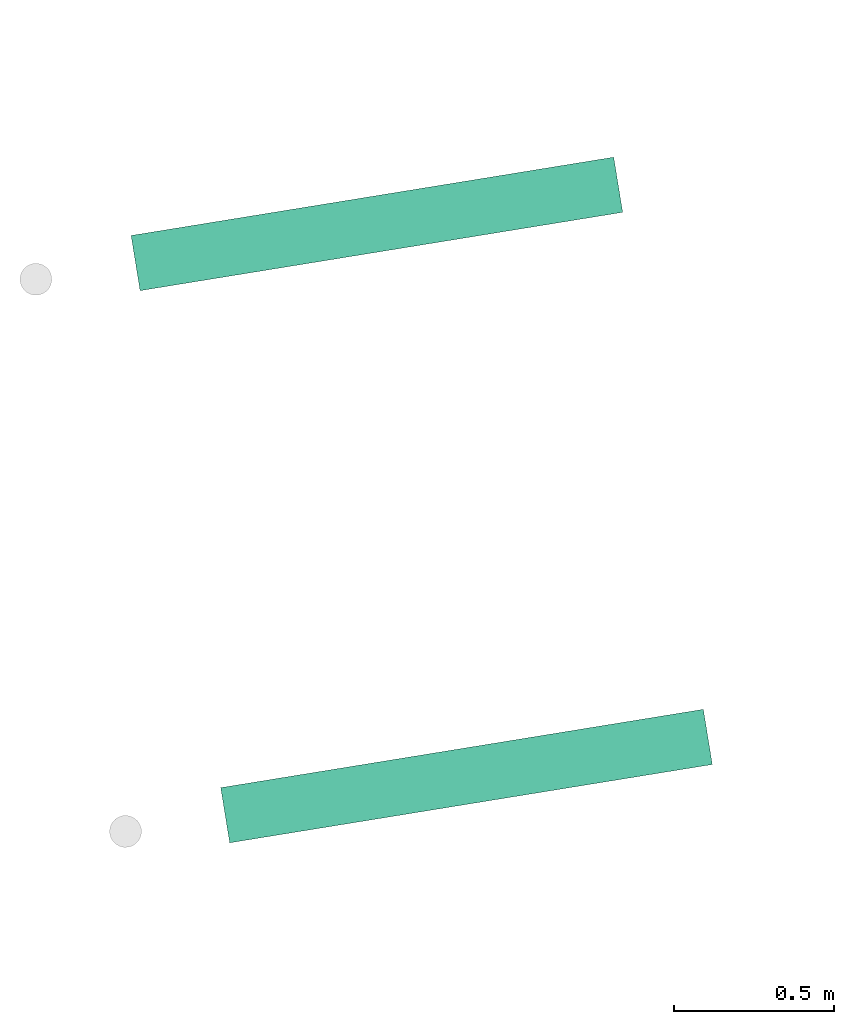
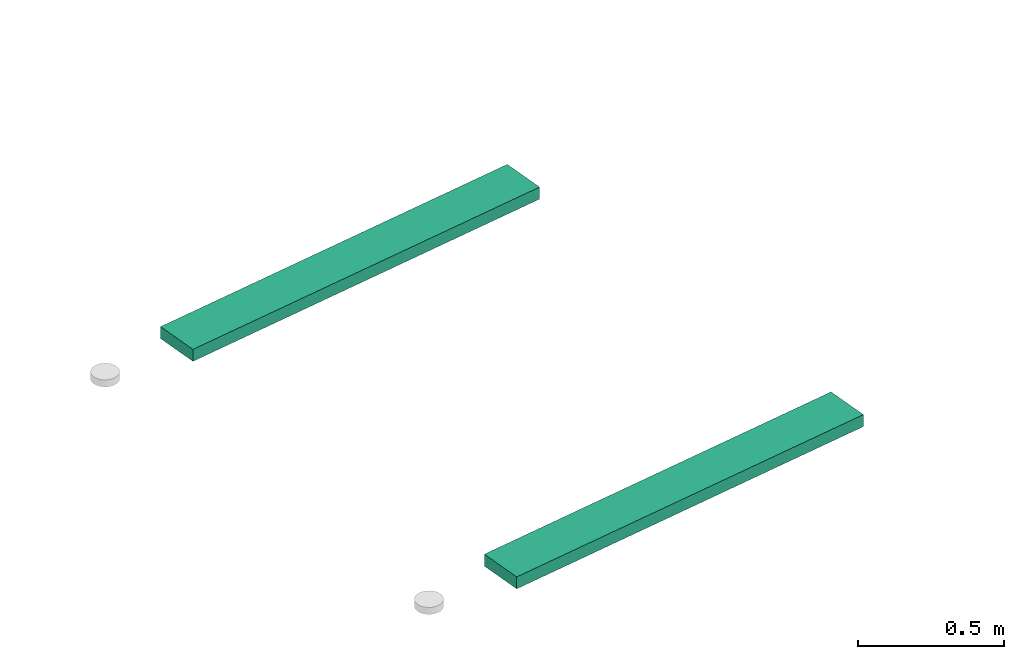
# One storey, incomplete: 2 flow terminals.
"""IFC2X3 building model written with IfcOpenShell, lengths in millimetres."""

import ifcopenshell
import ifcopenshell.guid

model = None  # the IFC model being written
_history = None  # IfcOwnerHistory: only IFC2X3 demands one
_inside = {}  # id of a spatial element -> (the spatial element, [elements in it])
_under = {}  # id of a project, library or spatial element -> (it, [spatial elements below it])
_declared = {}  # id of a project -> (the project, [libraries it declares])
_typed = {}  # id of a type object -> (the type object, [elements of that type])
_made_of = {}  # id of a material, layer set ... -> (it, [elements and type objects made of it])


def new_model(schema):
    """Start an empty IFC model of exactly this schema.

    Asked for "IFC4X3", IfcOpenShell would pick the latest addendum, in which some entities
    have other attributes; the version numbers below select the first issue.
    IFC2X3 requires an IfcOwnerHistory on every rooted entity: one is made here for all.
    """
    global model, _history
    if schema == "IFC4X3":
        model = ifcopenshell.file(schema_version=(4, 3, 0, 0))
    else:
        model = ifcopenshell.file(schema=schema)
    _inside.clear()
    _under.clear()
    _declared.clear()
    _typed.clear()
    _made_of.clear()
    _history = None
    if model.schema == "IFC2X3":
        org = make("IfcOrganization", Name="unknown")
        user = make(
            "IfcPersonAndOrganization",
            ThePerson=make("IfcPerson", FamilyName="unknown"),
            TheOrganization=org,
        )
        app = make(
            "IfcApplication",
            ApplicationDeveloper=org,
            Version="unknown",
            ApplicationFullName="unknown",
            ApplicationIdentifier="unknown",
        )
        _history = make(
            "IfcOwnerHistory",
            OwningUser=user,
            OwningApplication=app,
            ChangeAction="ADDED",
            CreationDate=0,
        )
    return model


def make(cls, **values):
    """One entity of the class cls with the attributes given. An attribute that is None is left unset."""
    return model.create_entity(
        cls, **{name: value for name, value in values.items() if value is not None}
    )


def entity(cls, *values):
    """Any entity or typed value of the class cls, its attributes in the order of the schema. None: left unset."""
    e = model.create_entity(cls)
    for i, value in enumerate(values):
        if value is not None:
            e[i] = value
    return e


def rooted(cls, **values):
    """An entity with a GlobalId (a new one), such as an element, a storey or a relation."""
    return make(cls, GlobalId=ifcopenshell.guid.new(), OwnerHistory=_history, **values)


def si_unit(unit_type, name, prefix=None):
    """IfcSIUnit, for example si_unit("LENGTHUNIT", "METRE", prefix="MILLI")."""
    return make("IfcSIUnit", UnitType=unit_type, Prefix=prefix, Name=name)


def converted_unit(unit_type, name, factor, base, dimensions=None, offset=None):
    """IfcConversionBasedUnit, such as the inch: factor (a typed value) times the base unit."""
    return make(
        "IfcConversionBasedUnit"
        if offset is None
        else "IfcConversionBasedUnitWithOffset",
        ConversionOffset=offset,
        Dimensions=None
        if dimensions is None
        else entity("IfcDimensionalExponents", *dimensions),
        UnitType=unit_type,
        Name=name,
        ConversionFactor=make(
            "IfcMeasureWithUnit", ValueComponent=factor, UnitComponent=base
        ),
    )


def derived_unit(unit_type, elements):
    """IfcDerivedUnit: a product of units, each with its exponent."""
    return make(
        "IfcDerivedUnit",
        Elements=[
            make("IfcDerivedUnitElement", Unit=unit, Exponent=power)
            for unit, power in elements
        ],
        UnitType=unit_type,
    )


def assignment(units):
    """IfcUnitAssignment: the units of a project."""
    return None if units is None else make("IfcUnitAssignment", Units=units)


def point(xyz):
    """IfcCartesianPoint."""
    return None if xyz is None else make("IfcCartesianPoint", Coordinates=xyz)


def direction(xyz):
    """IfcDirection."""
    return None if xyz is None else make("IfcDirection", DirectionRatios=xyz)


def frame(location, z_axis=None, x_axis=None):
    """IfcAxis2Placement3D, a coordinate frame: its origin and axes. An axis left out is left unset."""
    return make(
        "IfcAxis2Placement3D",
        Location=point(location),
        Axis=direction(z_axis),
        RefDirection=direction(x_axis),
    )


def frame_2d(location, x_axis=None):
    """IfcAxis2Placement2D, a coordinate frame in the plane: its origin and x axis."""
    return make(
        "IfcAxis2Placement2D", Location=point(location), RefDirection=direction(x_axis)
    )


def origin():
    """The frame at (0, 0, 0) with its axes left unset."""
    return frame((0.0, 0.0, 0.0))


def origin_with_axes():
    """The frame at (0, 0, 0) with the z axis (0, 0, 1) and the x axis (1, 0, 0) written out."""
    return frame((0.0, 0.0, 0.0), z_axis=(0.0, 0.0, 1.0), x_axis=(1.0, 0.0, 0.0))


def origin_2d_with_axis():
    """The frame at (0, 0) in the plane with the x axis (1, 0) written out."""
    return frame_2d((0.0, 0.0), x_axis=(1.0, 0.0))


def place(relative_to, where):
    """IfcLocalPlacement: puts the frame where relative to a parent placement (None: the world)."""
    return make(
        "IfcLocalPlacement", PlacementRelTo=relative_to, RelativePlacement=where
    )


def context(
    kind, dimensions, precision=None, world=None, true_north=None, identifier=None
):
    """IfcGeometricRepresentationContext, for example the 3D "Model" context."""
    return make(
        "IfcGeometricRepresentationContext",
        ContextIdentifier=identifier,
        ContextType=kind,
        CoordinateSpaceDimension=dimensions,
        Precision=precision,
        WorldCoordinateSystem=world,
        TrueNorth=true_north,
    )


def subcontext(parent, identifier, kind, view, scale=None):
    """IfcGeometricRepresentationSubContext, for example "Body" below "Model"."""
    return make(
        "IfcGeometricRepresentationSubContext",
        ContextIdentifier=identifier,
        ContextType=kind,
        ParentContext=parent,
        TargetScale=scale,
        TargetView=view,
    )


def project(units=None, contexts=None):
    """IfcProject with its units and contexts."""
    return rooted(
        "IfcProject",
        Name="project",
        RepresentationContexts=contexts,
        UnitsInContext=assignment(units),
    )


def spatial(cls, under=None, at=None, **own):
    """A site, building, storey or space (cls), placed at a placement, below another one or the project."""
    s = rooted(cls, ObjectPlacement=at, **own)
    if under is not None:
        _under.setdefault(under.id(), (under, []))[1].append(s)
    return s


def profile(cls, at=None, kind="AREA", **sizes):
    """A parametric profile (cls). Its sizes go by their IFC names, for example OverallWidth=200.0."""
    return make(cls, ProfileType=kind, Position=at, **sizes)


def rectangle(**sizes):
    """IfcRectangleProfileDef."""
    return profile("IfcRectangleProfileDef", **sizes)


def extrude(swept, where, along, depth):
    """IfcExtrudedAreaSolid: the profile swept, set in the frame where, extruded along a direction by depth."""
    return make(
        "IfcExtrudedAreaSolid",
        SweptArea=swept,
        Position=where,
        ExtrudedDirection=direction(along),
        Depth=depth,
    )


def shape(context_of_items, identifier, shape_type, items):
    """IfcShapeRepresentation: the items that make up one representation, for example the "Body"."""
    return make(
        "IfcShapeRepresentation",
        ContextOfItems=context_of_items,
        RepresentationIdentifier=identifier,
        RepresentationType=shape_type,
        Items=items,
    )


def source(mapping_origin, context_of_items, identifier, shape_type, items):
    """IfcRepresentationMap: a shape defined once, which mapped items show again and again."""
    return make(
        "IfcRepresentationMap",
        MappingOrigin=mapping_origin,
        MappedRepresentation=shape(context_of_items, identifier, shape_type, items),
    )


def transform(
    local_origin,
    x_axis=None,
    y_axis=None,
    z_axis=None,
    scale=None,
    scale2=None,
    scale3=None,
    uniform=True,
):
    """IfcCartesianTransformationOperator3D, or its non-uniform kind. x_axis, y_axis, z_axis: its Axis1, 2, 3."""
    if uniform:
        return make(
            "IfcCartesianTransformationOperator3D",
            Axis1=direction(x_axis),
            Axis2=direction(y_axis),
            LocalOrigin=point(local_origin),
            Scale=scale,
            Axis3=direction(z_axis),
        )
    return make(
        "IfcCartesianTransformationOperator3DnonUniform",
        Axis1=direction(x_axis),
        Axis2=direction(y_axis),
        LocalOrigin=point(local_origin),
        Scale=scale,
        Axis3=direction(z_axis),
        Scale2=scale2,
        Scale3=scale3,
    )


def mapped(mapping_source, mapping_target):
    """IfcMappedItem: shows the shape of a source again, moved by a transform."""
    return make(
        "IfcMappedItem", MappingSource=mapping_source, MappingTarget=mapping_target
    )


def material(Name=None, Category=None):
    """IfcMaterial."""
    return make("IfcMaterial", Name=Name, Category=Category)


def made_of(thing, what):
    """Note that an element or type object is made of a material, layer set ...; save() writes the relation."""
    if what is not None:
        _made_of.setdefault(what.id(), (what, []))[1].append(thing)
    return thing


def type_object(cls, material=None, **own):
    """A type object (cls), such as IfcWallType, which elements share."""
    return made_of(rooted(cls, **own), material)


def element(
    cls,
    number,
    at=None,
    inside=None,
    cuts=None,
    type_object=None,
    material=None,
    context=None,
    identifier="Body",
    shape_type=None,
    held_by="IfcProductDefinitionShape",
    body=None,
    shapes=None,
    **own,
):
    """One element of the class cls, such as IfcWall. Its Tag is "e" and its number.

    at: its placement. inside: the storey or other place that contains it. cuts: it is an
    opening in that element (IfcRelVoidsElement). A single representation is given by context,
    identifier, shape_type and body (its items); several are given by shapes. held_by: the class
    of the entity that holds the representations. save() writes the other relations.
    """
    e = rooted(cls, Tag="e%d" % number, ObjectPlacement=at, **own)
    if body is not None:
        shapes = [shape(context, identifier, shape_type, body)]
    if shapes is not None:
        e.Representation = make(held_by, Representations=shapes)
    if inside is not None:
        _inside.setdefault(inside.id(), (inside, []))[1].append(e)
    if cuts is not None:
        rooted(
            "IfcRelVoidsElement", RelatingBuildingElement=cuts, RelatedOpeningElement=e
        )
    if type_object is not None:
        _typed.setdefault(type_object.id(), (type_object, []))[1].append(e)
    return made_of(e, material)


def aggregate(whole, parts):
    """IfcRelAggregates: a whole, such as a stair, and the parts it consists of."""
    return rooted("IfcRelAggregates", RelatingObject=whole, RelatedObjects=parts)


def save(model, path):
    """Write the relations noted so far, then the file.

    IfcRelAggregates (storeys below a building ...), IfcRelContainedInSpatialStructure (elements
    in a storey), IfcRelDefinesByType, IfcRelAssociatesMaterial and IfcRelDeclares: one each for
    every whole, place, type object, material and project.
    """
    for whole, parts in _under.values():
        aggregate(whole, parts)
    for where, things in _inside.values():
        rooted(
            "IfcRelContainedInSpatialStructure",
            RelatedElements=things,
            RelatingStructure=where,
        )
    for kind, things in _typed.values():
        rooted("IfcRelDefinesByType", RelatedObjects=things, RelatingType=kind)
    for what, things in _made_of.values():
        rooted("IfcRelAssociatesMaterial", RelatedObjects=things, RelatingMaterial=what)
    for by, libraries in _declared.values():
        rooted("IfcRelDeclares", RelatingContext=by, RelatedDefinitions=libraries)
    model.write(path)


model = new_model("IFC2X3")

# Units and contexts
plan_context = context("Plan", 3, precision=1e-05, world=origin_with_axes())
model_context = context("Model", 3, precision=0.01, world=origin(), true_north=direction((6.12323399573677e-17, 1.0)))
body_context = subcontext(model_context, "Body", "Model", "MODEL_VIEW")
ifc_project = project(units=[converted_unit("PLANEANGLEUNIT", "DEGREE", entity("IfcPositiveLengthMeasure", 0.0174532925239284), si_unit("PLANEANGLEUNIT", "RADIAN"), dimensions=[0, 0, 0, 0, 0, 0, 0]), si_unit("AREAUNIT", "SQUARE_METRE"), si_unit("LENGTHUNIT", "METRE", prefix="MILLI"), si_unit("MASSUNIT", "GRAM", prefix="KILO"), si_unit("POWERUNIT", "WATT"), si_unit("PRESSUREUNIT", "PASCAL", prefix="KILO"), si_unit("FORCEUNIT", "NEWTON", prefix="KILO"), si_unit("ELECTRICVOLTAGEUNIT", "VOLT"), si_unit("ELECTRICCURRENTUNIT", "AMPERE"), si_unit("THERMODYNAMICTEMPERATUREUNIT", "DEGREE_CELSIUS"), si_unit("TIMEUNIT", "SECOND"), si_unit("VOLUMEUNIT", "CUBIC_METRE"), derived_unit("LINEARVELOCITYUNIT", [(si_unit("LENGTHUNIT", "METRE"), 1), (si_unit("TIMEUNIT", "SECOND"), -1)]), derived_unit("VOLUMETRICFLOWRATEUNIT", [(si_unit("VOLUMEUNIT", "CUBIC_METRE"), 1), (si_unit("TIMEUNIT", "SECOND"), -1)]), derived_unit("THERMALTRANSMITTANCEUNIT", [(si_unit("POWERUNIT", "WATT"), 1), (si_unit("THERMODYNAMICTEMPERATUREUNIT", "KELVIN"), -1), (si_unit("AREAUNIT", "SQUARE_METRE"), -1)]), derived_unit("SOUNDPRESSUREUNIT", [(si_unit("PRESSUREUNIT", "PASCAL"), 1)])], contexts=[model_context, plan_context])

# Site, building, storey
site_placement = place(None, frame((-0.219946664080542, 0.12226179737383, 0.0), z_axis=(0.0, 0.0, 1.0), x_axis=(-0.160236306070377, 0.987078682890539, 0.0)))
site = spatial("IfcSite", under=ifc_project, at=site_placement, Name="Default", CompositionType="ELEMENT")
building_placement = place(site_placement, origin_with_axes())
building = spatial("IfcBuilding", under=site, at=building_placement, CompositionType="ELEMENT")
storey_placement = place(building_placement, frame((0.0, 0.0, 55630.0), z_axis=(0.0, 0.0, 1.0), x_axis=(1.0, 0.0, 0.0)))
storey = spatial("IfcBuildingStorey", under=building, at=storey_placement, Name="Nivå E", CompositionType="ELEMENT", Elevation=55630.0)

# Flow terminals
ifc_material = material(Name="<Unnamed>")
light_fixture_type = type_object("IfcLightFixtureType", Name="Teknisk tak utenpåliggende T5 2x49 CL W_REFL IP44:-UP2110 Teknisk Tak T5 2x49 IP44", PredefinedType="NOTDEFINED", material=ifc_material)
shared_shape = source(origin(), body_context, "Body", "SweptSolid", [
    extrude(rectangle(XDim=1530.0, YDim=175.0, at=origin_2d_with_axis()), frame((0.0, 0.0, -50.0)), (0.0, 0.0, 1.0), 50.0),
])
for number, where, z_axis, x_axis in (
    (1, (767852.20703125, -502827.503613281, 3149.9999999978), (0.0, 0.0, 1.0), (0.0, 1.0, 0.0)),
    (2, (769602.62578125, -502827.503613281, 3149.9999999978), (0.0, 0.0, 1.0), (0.0, 1.0, 0.0)),
):
    element("IfcFlowTerminal", number, at=place(storey_placement, frame(where, z_axis=z_axis, x_axis=x_axis)), inside=storey, type_object=light_fixture_type, material=ifc_material, Name="Teknisk tak utenpåliggende T5 2x49 CL W_REFL IP44:-UP2110 Teknisk Tak T5 2x49 IP44", ObjectType="Teknisk tak utenpåliggende T5 2x49 CL W_REFL IP44:-UP2110 Teknisk Tak T5 2x49 IP44", context=body_context, shape_type="MappedRepresentation", body=[
        mapped(shared_shape, transform((0.0, 0.0, 0.0), scale=1.0)),
    ])

save(model, "model.ifc")
